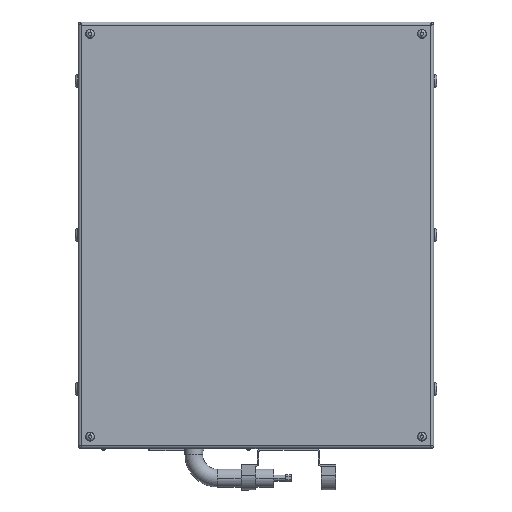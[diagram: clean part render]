
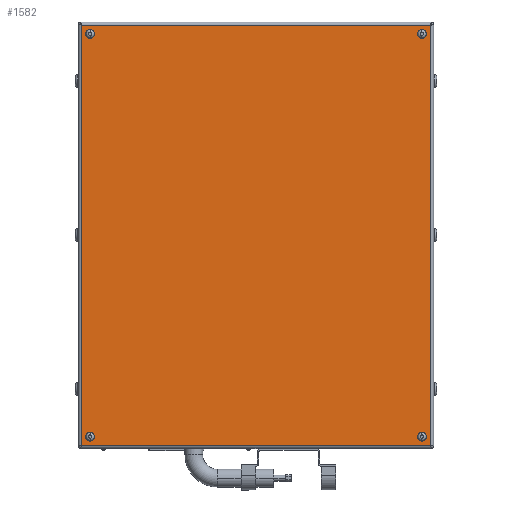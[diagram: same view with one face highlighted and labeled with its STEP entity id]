
A CAD part, front view. The second image highlights one B-rep face of the part: STEP entity #1582.
In plain terms, the highlighted planar face has unit normal (0, -1, 0).
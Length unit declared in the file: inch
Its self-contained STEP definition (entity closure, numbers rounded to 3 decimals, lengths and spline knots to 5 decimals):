
#664 = VERTEX_POINT ( 'NONE', #19029 ) ;
#1020 = DIRECTION ( 'NONE',  ( 0., 0., -1. ) ) ;
#1140 = CARTESIAN_POINT ( 'NONE',  ( -14., -10.5, 17. ) ) ;
#1312 = ORIENTED_EDGE ( 'NONE', *, *, #19073, .F. ) ;
#1321 = AXIS2_PLACEMENT_3D ( 'NONE', #18801, #4569, #18694 ) ;
#1559 = DIRECTION ( 'NONE',  ( 0., -1., 0. ) ) ;
#1567 = AXIS2_PLACEMENT_3D ( 'NONE', #1140, #7550, #12093 ) ;
#1582 = ADVANCED_FACE ( 'NONE', ( #15048, #16612, #2179, #5438, #7342 ), #15366, .T. ) ;
#1787 = CARTESIAN_POINT ( 'NONE',  ( -14.734, -10.5, -17.8 ) ) ;
#2164 = EDGE_LOOP ( 'NONE', ( #3680, #7230, #9808, #2905 ) ) ;
#2179 = FACE_BOUND ( 'NONE', #11514, .T. ) ;
#2563 = CARTESIAN_POINT ( 'NONE',  ( -14.8, -10.5, 17.734 ) ) ;
#2697 = EDGE_CURVE ( 'NONE', #9195, #4573, #8413, .T. ) ;
#2822 = CARTESIAN_POINT ( 'NONE',  ( 14., -10.5, 16.62598 ) ) ;
#2905 = ORIENTED_EDGE ( 'NONE', *, *, #2697, .T. ) ;
#2924 = VECTOR ( 'NONE', #7199, 39.37008 ) ;
#3039 = CARTESIAN_POINT ( 'NONE',  ( -14., -10.5, 17. ) ) ;
#3524 = AXIS2_PLACEMENT_3D ( 'NONE', #3039, #11154, #12734 ) ;
#3680 = ORIENTED_EDGE ( 'NONE', *, *, #10240, .T. ) ;
#4569 = DIRECTION ( 'NONE',  ( 0., -1., 0. ) ) ;
#4573 = VERTEX_POINT ( 'NONE', #16502 ) ;
#4808 = DIRECTION ( 'NONE',  ( 0., 0., -1. ) ) ;
#4906 = AXIS2_PLACEMENT_3D ( 'NONE', #20323, #14398, #6368 ) ;
#5030 = CARTESIAN_POINT ( 'NONE',  ( 14.8, -10.5, -17.734 ) ) ;
#5091 = VERTEX_POINT ( 'NONE', #15459 ) ;
#5438 = FACE_BOUND ( 'NONE', #13160, .T. ) ;
#5720 = ORIENTED_EDGE ( 'NONE', *, *, #6244, .F. ) ;
#6180 = CARTESIAN_POINT ( 'NONE',  ( -14., -10.5, -17. ) ) ;
#6244 = EDGE_CURVE ( 'NONE', #8896, #10719, #9516, .T. ) ;
#6368 = DIRECTION ( 'NONE',  ( 0., 0., -1. ) ) ;
#6750 = CARTESIAN_POINT ( 'NONE',  ( 14., -10.5, -16.62598 ) ) ;
#7171 = AXIS2_PLACEMENT_3D ( 'NONE', #18221, #10246, #13814 ) ;
#7199 = DIRECTION ( 'NONE',  ( -1., 0., 0. ) ) ;
#7230 = ORIENTED_EDGE ( 'NONE', *, *, #20191, .T. ) ;
#7247 = CIRCLE ( 'NONE', #9954, 0.37402 ) ;
#7342 = FACE_OUTER_BOUND ( 'NONE', #2164, .T. ) ;
#7550 = DIRECTION ( 'NONE',  ( 0., -1., 0. ) ) ;
#7631 = EDGE_CURVE ( 'NONE', #9143, #20121, #13991, .T. ) ;
#7661 = AXIS2_PLACEMENT_3D ( 'NONE', #17093, #9273, #13707 ) ;
#7927 = DIRECTION ( 'NONE',  ( 0., -1., 0. ) ) ;
#8278 = VECTOR ( 'NONE', #16015, 39.37008 ) ;
#8332 = CIRCLE ( 'NONE', #7661, 0.37402 ) ;
#8413 = LINE ( 'NONE', #5030, #20789 ) ;
#8562 = VERTEX_POINT ( 'NONE', #6750 ) ;
#8567 = LINE ( 'NONE', #15015, #20750 ) ;
#8695 = CARTESIAN_POINT ( 'NONE',  ( 14., -10.5, -17. ) ) ;
#8896 = VERTEX_POINT ( 'NONE', #16617 ) ;
#9045 = EDGE_CURVE ( 'NONE', #15273, #18210, #10650, .T. ) ;
#9143 = VERTEX_POINT ( 'NONE', #14962 ) ;
#9195 = VERTEX_POINT ( 'NONE', #10788 ) ;
#9273 = DIRECTION ( 'NONE',  ( 0., -1., 0. ) ) ;
#9506 = CARTESIAN_POINT ( 'NONE',  ( 14., -10.5, 17. ) ) ;
#9516 = CIRCLE ( 'NONE', #9848, 0.37402 ) ;
#9730 = DIRECTION ( 'NONE',  ( 0., 0., -1. ) ) ;
#9808 = ORIENTED_EDGE ( 'NONE', *, *, #10818, .T. ) ;
#9848 = AXIS2_PLACEMENT_3D ( 'NONE', #9506, #7927, #9730 ) ;
#9954 = AXIS2_PLACEMENT_3D ( 'NONE', #6180, #1559, #4808 ) ;
#10024 = ORIENTED_EDGE ( 'NONE', *, *, #10836, .F. ) ;
#10240 = EDGE_CURVE ( 'NONE', #4573, #5091, #8567, .T. ) ;
#10246 = DIRECTION ( 'NONE',  ( 0., -1., 0. ) ) ;
#10650 = CIRCLE ( 'NONE', #1567, 0.37402 ) ;
#10662 = ORIENTED_EDGE ( 'NONE', *, *, #16801, .F. ) ;
#10719 = VERTEX_POINT ( 'NONE', #2822 ) ;
#10788 = CARTESIAN_POINT ( 'NONE',  ( -14.734, -10.5, -17.734 ) ) ;
#10818 = EDGE_CURVE ( 'NONE', #664, #9195, #20790, .T. ) ;
#10836 = EDGE_CURVE ( 'NONE', #20121, #9143, #7247, .T. ) ;
#11154 = DIRECTION ( 'NONE',  ( 0., -1., 0. ) ) ;
#11378 = DIRECTION ( 'NONE',  ( 1., 0., 0. ) ) ;
#11514 = EDGE_LOOP ( 'NONE', ( #10662, #19424 ) ) ;
#11531 = AXIS2_PLACEMENT_3D ( 'NONE', #8695, #18258, #1020 ) ;
#12093 = DIRECTION ( 'NONE',  ( 0., 0., -1. ) ) ;
#12734 = DIRECTION ( 'NONE',  ( 0., 0., -1. ) ) ;
#13160 = EDGE_LOOP ( 'NONE', ( #10024, #18380 ) ) ;
#13418 = DIRECTION ( 'NONE',  ( 0., 0., 1. ) ) ;
#13707 = DIRECTION ( 'NONE',  ( 0., 0., -1. ) ) ;
#13814 = DIRECTION ( 'NONE',  ( 0., 0., -1. ) ) ;
#13886 = EDGE_CURVE ( 'NONE', #15856, #8562, #8332, .T. ) ;
#13933 = LINE ( 'NONE', #2563, #2924 ) ;
#13968 = CIRCLE ( 'NONE', #3524, 0.37402 ) ;
#13991 = CIRCLE ( 'NONE', #4906, 0.37402 ) ;
#14398 = DIRECTION ( 'NONE',  ( 0., -1., 0. ) ) ;
#14962 = CARTESIAN_POINT ( 'NONE',  ( -14., -10.5, -17.37402 ) ) ;
#15015 = CARTESIAN_POINT ( 'NONE',  ( 14.734, -10.5, 17.8 ) ) ;
#15048 = FACE_BOUND ( 'NONE', #19843, .T. ) ;
#15273 = VERTEX_POINT ( 'NONE', #16278 ) ;
#15366 = PLANE ( 'NONE',  #1321 ) ;
#15416 = CARTESIAN_POINT ( 'NONE',  ( 14., -10.5, -17.37402 ) ) ;
#15459 = CARTESIAN_POINT ( 'NONE',  ( 14.734, -10.5, 17.734 ) ) ;
#15637 = ORIENTED_EDGE ( 'NONE', *, *, #9045, .F. ) ;
#15681 = EDGE_LOOP ( 'NONE', ( #15637, #1312 ) ) ;
#15856 = VERTEX_POINT ( 'NONE', #15416 ) ;
#16011 = CARTESIAN_POINT ( 'NONE',  ( -14., -10.5, 16.62598 ) ) ;
#16015 = DIRECTION ( 'NONE',  ( 0., 0., -1. ) ) ;
#16278 = CARTESIAN_POINT ( 'NONE',  ( -14., -10.5, 17.37402 ) ) ;
#16492 = CARTESIAN_POINT ( 'NONE',  ( -14., -10.5, -16.62598 ) ) ;
#16502 = CARTESIAN_POINT ( 'NONE',  ( 14.734, -10.5, -17.734 ) ) ;
#16612 = FACE_BOUND ( 'NONE', #15681, .T. ) ;
#16617 = CARTESIAN_POINT ( 'NONE',  ( 14., -10.5, 17.37402 ) ) ;
#16801 = EDGE_CURVE ( 'NONE', #8562, #15856, #19891, .T. ) ;
#17093 = CARTESIAN_POINT ( 'NONE',  ( 14., -10.5, -17. ) ) ;
#17282 = CIRCLE ( 'NONE', #7171, 0.37402 ) ;
#17790 = EDGE_CURVE ( 'NONE', #10719, #8896, #17282, .T. ) ;
#18210 = VERTEX_POINT ( 'NONE', #16011 ) ;
#18221 = CARTESIAN_POINT ( 'NONE',  ( 14., -10.5, 17. ) ) ;
#18258 = DIRECTION ( 'NONE',  ( 0., -1., 0. ) ) ;
#18380 = ORIENTED_EDGE ( 'NONE', *, *, #7631, .F. ) ;
#18694 = DIRECTION ( 'NONE',  ( 0., 0., -1. ) ) ;
#18801 = CARTESIAN_POINT ( 'NONE',  ( 0., -10.5, 0. ) ) ;
#18999 = ORIENTED_EDGE ( 'NONE', *, *, #17790, .F. ) ;
#19029 = CARTESIAN_POINT ( 'NONE',  ( -14.734, -10.5, 17.734 ) ) ;
#19073 = EDGE_CURVE ( 'NONE', #18210, #15273, #13968, .T. ) ;
#19424 = ORIENTED_EDGE ( 'NONE', *, *, #13886, .F. ) ;
#19843 = EDGE_LOOP ( 'NONE', ( #5720, #18999 ) ) ;
#19891 = CIRCLE ( 'NONE', #11531, 0.37402 ) ;
#20121 = VERTEX_POINT ( 'NONE', #16492 ) ;
#20191 = EDGE_CURVE ( 'NONE', #5091, #664, #13933, .T. ) ;
#20323 = CARTESIAN_POINT ( 'NONE',  ( -14., -10.5, -17. ) ) ;
#20750 = VECTOR ( 'NONE', #13418, 39.37008 ) ;
#20789 = VECTOR ( 'NONE', #11378, 39.37008 ) ;
#20790 = LINE ( 'NONE', #1787, #8278 ) ;
